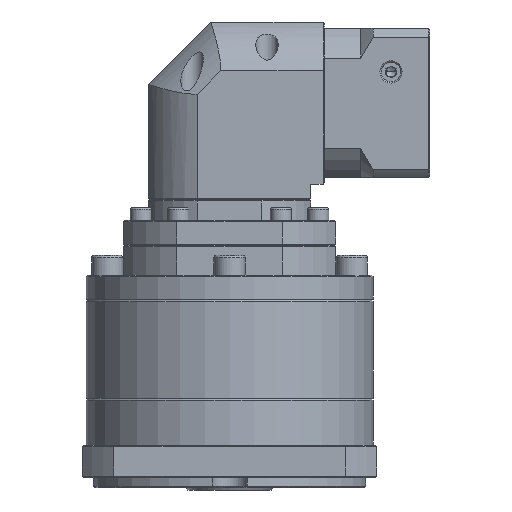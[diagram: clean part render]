
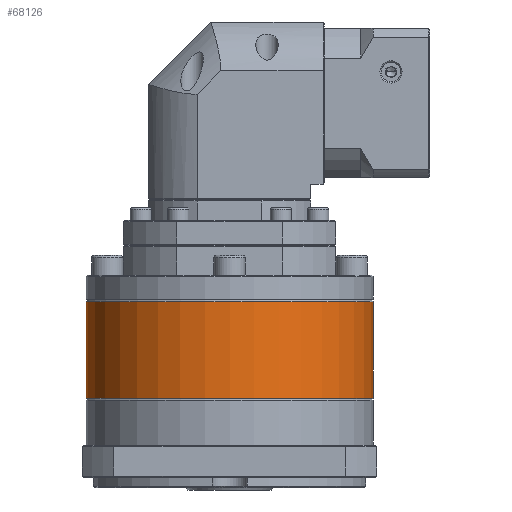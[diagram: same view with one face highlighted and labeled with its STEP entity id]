
A CAD part, front view. The second image highlights one B-rep face of the part: STEP entity #68126.
In plain terms, the highlighted cylindrical face has radius 57.5 mm (diameter 115 mm), a partial arc.
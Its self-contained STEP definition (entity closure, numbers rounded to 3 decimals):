
#2439 = DIRECTION ( 'NONE',  ( -1., 0., 0. ) ) ;
#7168 = ORIENTED_EDGE ( 'NONE', *, *, #35305, .T. ) ;
#9527 = VECTOR ( 'NONE', #110090, 1000. ) ;
#12610 = CARTESIAN_POINT ( 'NONE',  ( 65.386, 100.206, -87.624 ) ) ;
#13019 = VECTOR ( 'NONE', #50011, 1000. ) ;
#14898 = VERTEX_POINT ( 'NONE', #121556 ) ;
#15384 = CYLINDRICAL_SURFACE ( 'NONE', #65673, 57.5 ) ;
#16829 = EDGE_CURVE ( 'NONE', #35377, #59487, #52806, .T. ) ;
#18669 = AXIS2_PLACEMENT_3D ( 'NONE', #45185, #96332, #44298 ) ;
#20085 = ORIENTED_EDGE ( 'NONE', *, *, #16829, .F. ) ;
#20177 = DIRECTION ( 'NONE',  ( 0., 0., -1. ) ) ;
#23221 = DIRECTION ( 'NONE',  ( 0., 0., -1. ) ) ;
#25723 = EDGE_CURVE ( 'NONE', #14898, #29086, #39723, .T. ) ;
#25784 = CARTESIAN_POINT ( 'NONE',  ( 7.886, 100.206, -126.336 ) ) ;
#27795 = CARTESIAN_POINT ( 'NONE',  ( 7.886, 100.206, -87.124 ) ) ;
#29086 = VERTEX_POINT ( 'NONE', #25784 ) ;
#29457 = CARTESIAN_POINT ( 'NONE',  ( 65.386, 100.206, -87.124 ) ) ;
#35305 = EDGE_CURVE ( 'NONE', #29086, #59487, #99600, .T. ) ;
#35377 = VERTEX_POINT ( 'NONE', #115055 ) ;
#36567 = ORIENTED_EDGE ( 'NONE', *, *, #25723, .T. ) ;
#39723 = LINE ( 'NONE', #27795, #9527 ) ;
#44016 = FACE_OUTER_BOUND ( 'NONE', #71736, .T. ) ;
#44298 = DIRECTION ( 'NONE',  ( -1., 0., 0. ) ) ;
#45185 = CARTESIAN_POINT ( 'NONE',  ( 65.386, 100.206, -126.336 ) ) ;
#50011 = DIRECTION ( 'NONE',  ( 0., 0., -1. ) ) ;
#52806 = LINE ( 'NONE', #69631, #13019 ) ;
#59487 = VERTEX_POINT ( 'NONE', #68459 ) ;
#65673 = AXIS2_PLACEMENT_3D ( 'NONE', #29457, #20177, #2439 ) ;
#68126 = ADVANCED_FACE ( 'NONE', ( #44016 ), #15384, .T. ) ;
#68459 = CARTESIAN_POINT ( 'NONE',  ( 122.886, 100.206, -126.336 ) ) ;
#69631 = CARTESIAN_POINT ( 'NONE',  ( 122.886, 100.206, -87.124 ) ) ;
#71736 = EDGE_LOOP ( 'NONE', ( #20085, #90420, #36567, #7168 ) ) ;
#74435 = DIRECTION ( 'NONE',  ( -1., 0., 0. ) ) ;
#88525 = AXIS2_PLACEMENT_3D ( 'NONE', #12610, #23221, #74435 ) ;
#90420 = ORIENTED_EDGE ( 'NONE', *, *, #112303, .T. ) ;
#96332 = DIRECTION ( 'NONE',  ( 0., 0., 1. ) ) ;
#99600 = CIRCLE ( 'NONE', #18669, 57.5 ) ;
#110090 = DIRECTION ( 'NONE',  ( 0., 0., -1. ) ) ;
#112303 = EDGE_CURVE ( 'NONE', #35377, #14898, #127255, .T. ) ;
#115055 = CARTESIAN_POINT ( 'NONE',  ( 122.886, 100.206, -87.624 ) ) ;
#121556 = CARTESIAN_POINT ( 'NONE',  ( 7.886, 100.206, -87.624 ) ) ;
#127255 = CIRCLE ( 'NONE', #88525, 57.5 ) ;
